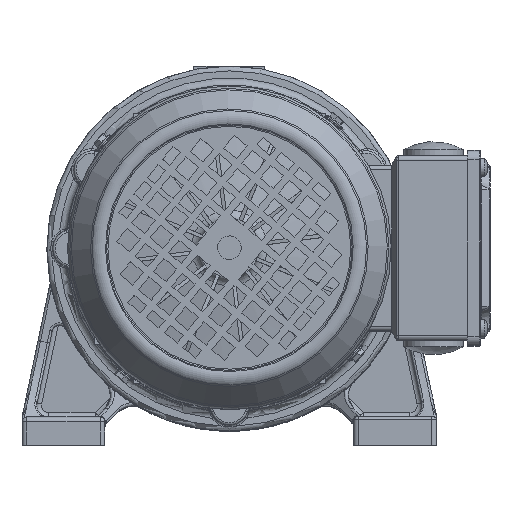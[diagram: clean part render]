
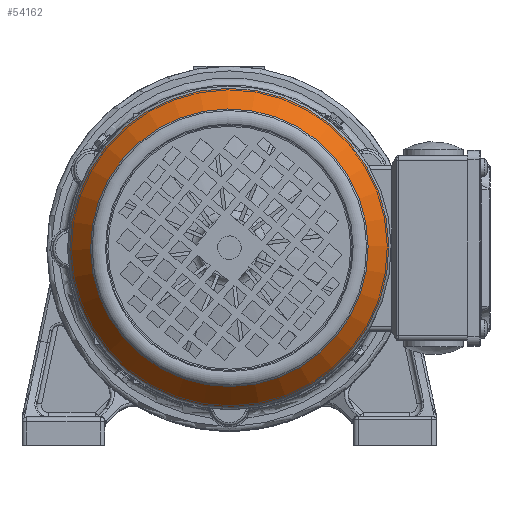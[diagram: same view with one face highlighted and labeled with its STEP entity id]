
A CAD part, top view. The second image highlights one B-rep face of the part: STEP entity #54162.
In plain terms, the highlighted conical face has half-angle 36.822 degrees and reference radius 67.302 mm.
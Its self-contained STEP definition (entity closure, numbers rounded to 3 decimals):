
#5795=CIRCLE('',#58146,58.569);
#5797=CIRCLE('',#58149,67.303);
#6225=CONICAL_SURFACE('',#58148,67.303,0.643);
#8521=FACE_OUTER_BOUND('',#11681,.T.);
#11681=EDGE_LOOP('',(#46790,#46791,#46792,#46793));
#15225=LINE('',#139272,#19337);
#19337=VECTOR('',#68409,67.303);
#24755=VERTEX_POINT('',#139266);
#24756=VERTEX_POINT('',#139270);
#32311=EDGE_CURVE('',#24755,#24755,#5795,.T.);
#32313=EDGE_CURVE('',#24756,#24756,#5797,.T.);
#32314=EDGE_CURVE('',#24756,#24755,#15225,.T.);
#46790=ORIENTED_EDGE('',*,*,#32313,.F.);
#46791=ORIENTED_EDGE('',*,*,#32314,.T.);
#46792=ORIENTED_EDGE('',*,*,#32311,.T.);
#46793=ORIENTED_EDGE('',*,*,#32314,.F.);
#54162=ADVANCED_FACE('',(#8521),#6225,.T.);
#58146=AXIS2_PLACEMENT_3D('',#139267,#68401,#68402);
#58148=AXIS2_PLACEMENT_3D('',#139269,#68405,#68406);
#58149=AXIS2_PLACEMENT_3D('',#139271,#68407,#68408);
#68401=DIRECTION('center_axis',(0.,0.,
-1.));
#68402=DIRECTION('ref_axis',(-0.774,0.634,0.));
#68405=DIRECTION('center_axis',(0.,0.,
-1.));
#68406=DIRECTION('ref_axis',(-0.774,0.634,0.));
#68407=DIRECTION('center_axis',(0.,0.,
-1.));
#68408=DIRECTION('ref_axis',(-0.774,0.634,0.));
#68409=DIRECTION('',(-0.464,0.38,0.801));
#139266=CARTESIAN_POINT('',(45.304,45.879,294.497));
#139267=CARTESIAN_POINT('Origin',(0.,83.,
294.497));
#139269=CARTESIAN_POINT('Origin',(0.,83.,
282.832));
#139270=CARTESIAN_POINT('',(52.059,40.344,282.832));
#139271=CARTESIAN_POINT('Origin',(0.,83.,
282.832));
#139272=CARTESIAN_POINT('',(52.059,40.344,282.832));
